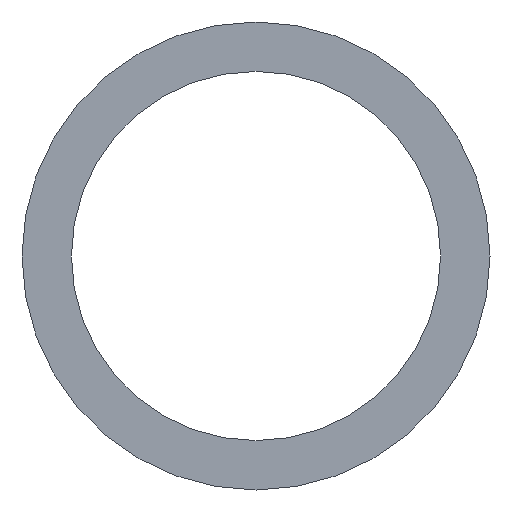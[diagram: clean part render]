
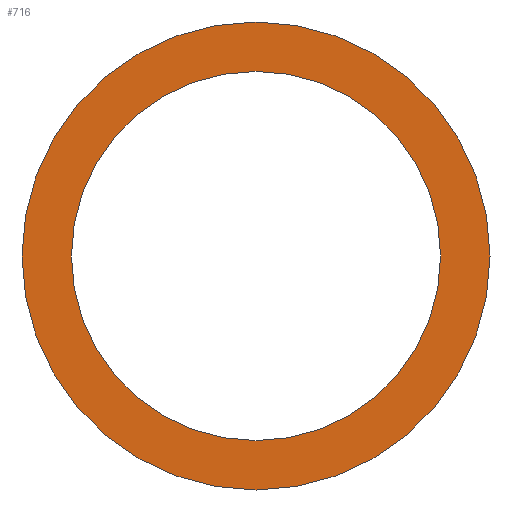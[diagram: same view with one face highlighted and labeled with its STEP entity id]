
A CAD part, front view. The second image highlights one B-rep face of the part: STEP entity #716.
In plain terms, the highlighted planar face has unit normal (0, -1, 0).
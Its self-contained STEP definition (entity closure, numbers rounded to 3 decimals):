
#145 = EDGE_CURVE ( 'NONE', #4148, #6620, #6941, .T. ) ;
#339 = CARTESIAN_POINT ( 'NONE',  ( 0., -43.5, 177.5 ) ) ;
#716 = ADVANCED_FACE ( 'NONE', ( #4818, #2674 ), #4482, .F. ) ;
#764 = ORIENTED_EDGE ( 'NONE', *, *, #6029, .F. ) ;
#890 = AXIS2_PLACEMENT_3D ( 'NONE', #4456, #3447, #3372 ) ;
#991 = CARTESIAN_POINT ( 'NONE',  ( 0., -43.5, 0. ) ) ;
#1029 = DIRECTION ( 'NONE',  ( 0., 0., -1. ) ) ;
#1218 = DIRECTION ( 'NONE',  ( 0., -1., 0. ) ) ;
#1589 = EDGE_LOOP ( 'NONE', ( #764, #5548 ) ) ;
#2151 = DIRECTION ( 'NONE',  ( 0., 0., -1. ) ) ;
#2372 = AXIS2_PLACEMENT_3D ( 'NONE', #4037, #5628, #5055 ) ;
#2674 = FACE_OUTER_BOUND ( 'NONE', #3717, .T. ) ;
#2811 = AXIS2_PLACEMENT_3D ( 'NONE', #991, #4757, #2151 ) ;
#3015 = ORIENTED_EDGE ( 'NONE', *, *, #4462, .T. ) ;
#3116 = VERTEX_POINT ( 'NONE', #6279 ) ;
#3262 = CARTESIAN_POINT ( 'NONE',  ( 0., -43.5, 0. ) ) ;
#3319 = CARTESIAN_POINT ( 'NONE',  ( 0., -43.5, -140. ) ) ;
#3372 = DIRECTION ( 'NONE',  ( 0., 0., 1. ) ) ;
#3447 = DIRECTION ( 'NONE',  ( 0., 1., 0. ) ) ;
#3717 = EDGE_LOOP ( 'NONE', ( #6088, #3015 ) ) ;
#4037 = CARTESIAN_POINT ( 'NONE',  ( 0., -43.5, 0. ) ) ;
#4144 = AXIS2_PLACEMENT_3D ( 'NONE', #4979, #1218, #4376 ) ;
#4148 = VERTEX_POINT ( 'NONE', #5037 ) ;
#4150 = CIRCLE ( 'NONE', #2811, 177.5 ) ;
#4267 = CIRCLE ( 'NONE', #4144, 177.5 ) ;
#4376 = DIRECTION ( 'NONE',  ( 0., 0., -1. ) ) ;
#4456 = CARTESIAN_POINT ( 'NONE',  ( 0., -43.5, 140. ) ) ;
#4462 = EDGE_CURVE ( 'NONE', #5726, #3116, #4150, .T. ) ;
#4482 = PLANE ( 'NONE',  #890 ) ;
#4757 = DIRECTION ( 'NONE',  ( 0., -1., 0. ) ) ;
#4818 = FACE_BOUND ( 'NONE', #1589, .T. ) ;
#4979 = CARTESIAN_POINT ( 'NONE',  ( 0., -43.5, 0. ) ) ;
#5037 = CARTESIAN_POINT ( 'NONE',  ( 0., -43.5, 140. ) ) ;
#5055 = DIRECTION ( 'NONE',  ( 0., 0., -1. ) ) ;
#5152 = AXIS2_PLACEMENT_3D ( 'NONE', #3262, #5926, #1029 ) ;
#5548 = ORIENTED_EDGE ( 'NONE', *, *, #145, .F. ) ;
#5628 = DIRECTION ( 'NONE',  ( 0., -1., 0. ) ) ;
#5726 = VERTEX_POINT ( 'NONE', #339 ) ;
#5926 = DIRECTION ( 'NONE',  ( 0., -1., 0. ) ) ;
#6029 = EDGE_CURVE ( 'NONE', #6620, #4148, #6512, .T. ) ;
#6088 = ORIENTED_EDGE ( 'NONE', *, *, #6884, .T. ) ;
#6279 = CARTESIAN_POINT ( 'NONE',  ( 0., -43.5, -177.5 ) ) ;
#6512 = CIRCLE ( 'NONE', #5152, 140. ) ;
#6620 = VERTEX_POINT ( 'NONE', #3319 ) ;
#6884 = EDGE_CURVE ( 'NONE', #3116, #5726, #4267, .T. ) ;
#6941 = CIRCLE ( 'NONE', #2372, 140. ) ;
